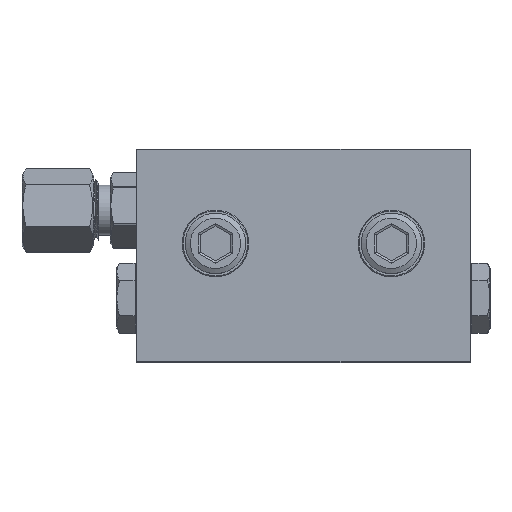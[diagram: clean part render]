
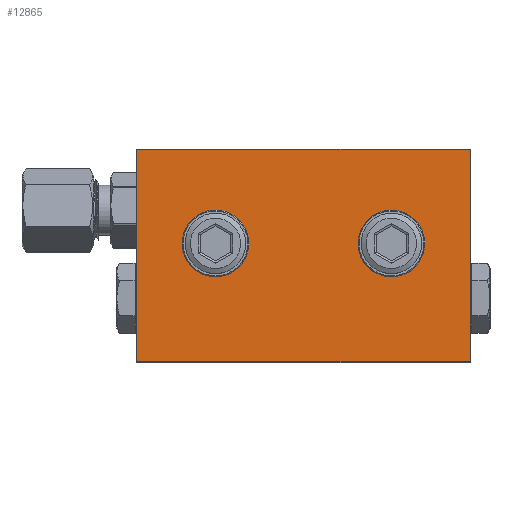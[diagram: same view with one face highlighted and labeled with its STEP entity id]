
A CAD part, top view. The second image highlights one B-rep face of the part: STEP entity #12865.
In plain terms, the highlighted planar face has unit normal (0, 0, 1) as drawn and (0, 0, -1) by its records, which use the part's own axes.
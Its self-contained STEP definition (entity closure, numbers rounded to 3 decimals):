
#712 = CARTESIAN_POINT ( 'NONE',  ( 11.4, -15.5, -4.85 ) ) ;
#785 = LINE ( 'NONE', #31088, #40109 ) ;
#2254 = DIRECTION ( 'NONE',  ( 0., -1., 0. ) ) ;
#2396 = DIRECTION ( 'NONE',  ( -1., 0., 0. ) ) ;
#2970 = CARTESIAN_POINT ( 'NONE',  ( -11.4, -15.5, -4.85 ) ) ;
#3016 = VECTOR ( 'NONE', #2254, 1000. ) ;
#4490 = CARTESIAN_POINT ( 'NONE',  ( 27.5, -35., -4.85 ) ) ;
#5261 = CARTESIAN_POINT ( 'NONE',  ( 27.5, 0., -4.85 ) ) ;
#5860 = FACE_OUTER_BOUND ( 'NONE', #9390, .T. ) ;
#7991 = CARTESIAN_POINT ( 'NONE',  ( -27.5, 0., -4.85 ) ) ;
#8846 = LINE ( 'NONE', #5261, #35680 ) ;
#9390 = EDGE_LOOP ( 'NONE', ( #13847, #30196, #16147, #9556 ) ) ;
#9556 = ORIENTED_EDGE ( 'NONE', *, *, #37295, .F. ) ;
#10283 = AXIS2_PLACEMENT_3D ( 'NONE', #14465, #31484, #37274 ) ;
#10716 = VERTEX_POINT ( 'NONE', #40943 ) ;
#10866 = VERTEX_POINT ( 'NONE', #37746 ) ;
#10868 = LINE ( 'NONE', #25835, #20687 ) ;
#11012 = EDGE_LOOP ( 'NONE', ( #33547 ) ) ;
#11361 = DIRECTION ( 'NONE',  ( 1., 0., 0. ) ) ;
#12865 = ADVANCED_FACE ( 'NONE', ( #33260, #26656, #5860 ), #19386, .F. ) ;
#12974 = EDGE_CURVE ( 'NONE', #33225, #33225, #21439, .T. ) ;
#13359 = AXIS2_PLACEMENT_3D ( 'NONE', #25412, #32676, #21906 ) ;
#13847 = ORIENTED_EDGE ( 'NONE', *, *, #30207, .F. ) ;
#14465 = CARTESIAN_POINT ( 'NONE',  ( 0., 0., -4.85 ) ) ;
#14684 = CARTESIAN_POINT ( 'NONE',  ( -14.5, -15.5, -4.85 ) ) ;
#16147 = ORIENTED_EDGE ( 'NONE', *, *, #21582, .F. ) ;
#18792 = DIRECTION ( 'NONE',  ( 0., 1., 0. ) ) ;
#19386 = PLANE ( 'NONE',  #10283 ) ;
#20687 = VECTOR ( 'NONE', #2396, 1000. ) ;
#21439 = CIRCLE ( 'NONE', #33421, 3.1 ) ;
#21582 = EDGE_CURVE ( 'NONE', #10866, #22558, #10868, .T. ) ;
#21906 = DIRECTION ( 'NONE',  ( -1., 0., 0. ) ) ;
#22558 = VERTEX_POINT ( 'NONE', #7991 ) ;
#23767 = EDGE_CURVE ( 'NONE', #37906, #37906, #26763, .T. ) ;
#25412 = CARTESIAN_POINT ( 'NONE',  ( 14.5, -15.5, -4.85 ) ) ;
#25835 = CARTESIAN_POINT ( 'NONE',  ( 0., 0., -4.85 ) ) ;
#26656 = FACE_BOUND ( 'NONE', #36090, .T. ) ;
#26763 = CIRCLE ( 'NONE', #13359, 3.1 ) ;
#27798 = DIRECTION ( 'NONE',  ( 1., 0., 0. ) ) ;
#28198 = DIRECTION ( 'NONE',  ( 0., 0., -1. ) ) ;
#28631 = EDGE_CURVE ( 'NONE', #22558, #10716, #31459, .T. ) ;
#30196 = ORIENTED_EDGE ( 'NONE', *, *, #28631, .F. ) ;
#30207 = EDGE_CURVE ( 'NONE', #10716, #35546, #785, .T. ) ;
#31088 = CARTESIAN_POINT ( 'NONE',  ( 0., -35., -4.85 ) ) ;
#31459 = LINE ( 'NONE', #38335, #3016 ) ;
#31484 = DIRECTION ( 'NONE',  ( 0., 0., 1. ) ) ;
#32676 = DIRECTION ( 'NONE',  ( 0., 0., -1. ) ) ;
#33225 = VERTEX_POINT ( 'NONE', #2970 ) ;
#33260 = FACE_BOUND ( 'NONE', #11012, .T. ) ;
#33421 = AXIS2_PLACEMENT_3D ( 'NONE', #14684, #28198, #11361 ) ;
#33547 = ORIENTED_EDGE ( 'NONE', *, *, #12974, .F. ) ;
#34075 = ORIENTED_EDGE ( 'NONE', *, *, #23767, .F. ) ;
#35546 = VERTEX_POINT ( 'NONE', #4490 ) ;
#35680 = VECTOR ( 'NONE', #18792, 1000. ) ;
#36090 = EDGE_LOOP ( 'NONE', ( #34075 ) ) ;
#37274 = DIRECTION ( 'NONE',  ( 1., 0., 0. ) ) ;
#37295 = EDGE_CURVE ( 'NONE', #35546, #10866, #8846, .T. ) ;
#37746 = CARTESIAN_POINT ( 'NONE',  ( 27.5, 0., -4.85 ) ) ;
#37906 = VERTEX_POINT ( 'NONE', #712 ) ;
#38335 = CARTESIAN_POINT ( 'NONE',  ( -27.5, 0., -4.85 ) ) ;
#40109 = VECTOR ( 'NONE', #27798, 1000. ) ;
#40943 = CARTESIAN_POINT ( 'NONE',  ( -27.5, -35., -4.85 ) ) ;
